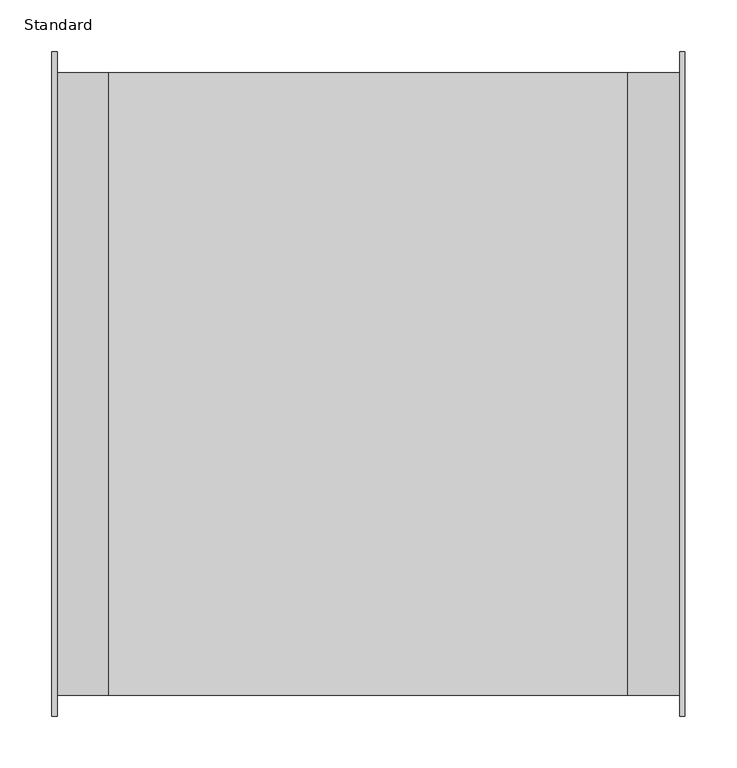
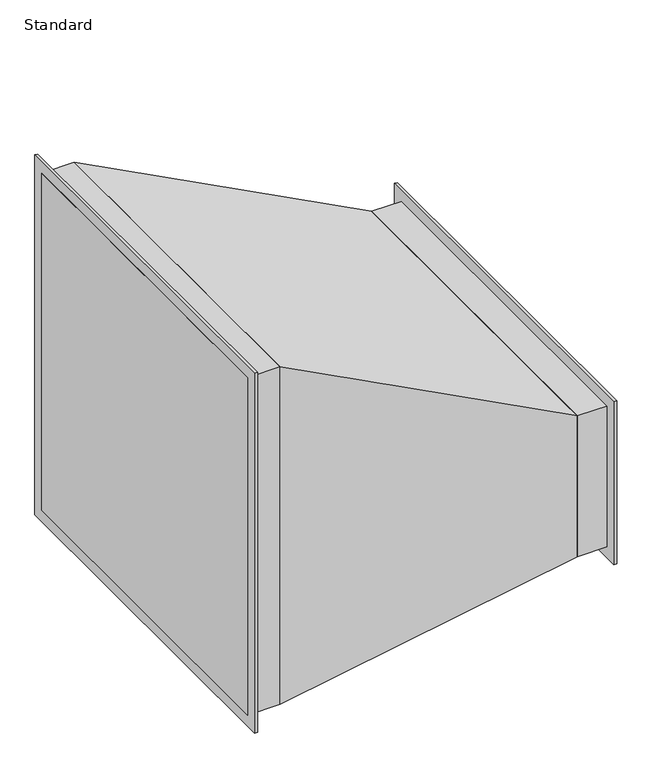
"""IFC4 building model written with IfcOpenShell, lengths in millimetres: duct fitting geometry, Übergang rechteck UA : Standard."""

from ifc_helpers import new_model, si_unit, frame, origin, place, context, project, spatial, polyline, outline, extrude, source, transform, mapped, element, save


def standard_9a327c88(model_context):
    return source(origin(), model_context, "Body", "SweptSolid", [
        extrude(outline(polyline([(555.0, -300.0), (555.0, 300.0), (610.0, 300.0), (610.0, -300.0), (555.0, -300.0)])), frame((0.0, 0.0, -212.5), z_axis=(0.0, 0.0, 1.0), x_axis=(1.0, 0.0, 0.0)), (0.0, 0.0, 1.0), 250.0),
        extrude(outline(polyline([(300.0, 55.0), (-300.0, 55.0), (-212.5, 555.0), (37.5, 555.0), (300.0, 55.0)])), frame((0.0, -300.0, 0.0), z_axis=(0.0, 1.0, 0.0), x_axis=(0.0, 0.0, 1.0)), (0.0, 0.0, 1.0), 600.0),
        extrude(outline(polyline([(0.0, -300.0), (0.0, 300.0), (55.0, 300.0), (55.0, -300.0), (0.0, -300.0)])), frame((0.0, 0.0, -300.0), z_axis=(0.0, 0.0, 1.0), x_axis=(1.0, 0.0, 0.0)), (0.0, 0.0, 1.0), 600.0),
        extrude(outline(polyline([(605.0, -320.0), (605.0, 320.0), (610.0, 320.0), (610.0, -320.0), (605.0, -320.0)])), frame((0.0, 0.0, -232.5), z_axis=(0.0, 0.0, 1.0), x_axis=(1.0, 0.0, 0.0)), (0.0, 0.0, 1.0), 290.0),
        extrude(outline(polyline([(0.0, -320.0), (0.0, 320.0), (5.0, 320.0), (5.0, -320.0), (0.0, -320.0)])), frame((0.0, 0.0, -320.0), z_axis=(0.0, 0.0, 1.0), x_axis=(1.0, 0.0, 0.0)), (0.0, 0.0, 1.0), 640.0),
    ])


if __name__ == "__main__":
    model = new_model("IFC4")
    model_context = context("Model", 3, world=origin())
    ifc_project = project(units=[si_unit("LENGTHUNIT", "METRE", prefix="MILLI")], contexts=[model_context])
    site = spatial("IfcSite", under=ifc_project)
    building = spatial("IfcBuilding", under=site)
    placement = place(None, origin())
    standard_shape = standard_9a327c88(model_context)
    element("IfcDuctFitting", 1, ObjectType="Übergang rechteck UA : Standard", at=placement, inside=building, context=model_context, shape_type="MappedRepresentation", body=[
        mapped(standard_shape, transform((0.0, 0.0, 0.0), x_axis=(1.0, 0.0, 0.0), y_axis=(0.0, 1.0, 0.0), z_axis=(0.0, 0.0, 1.0))),
    ])
    save(model, "model.ifc")
